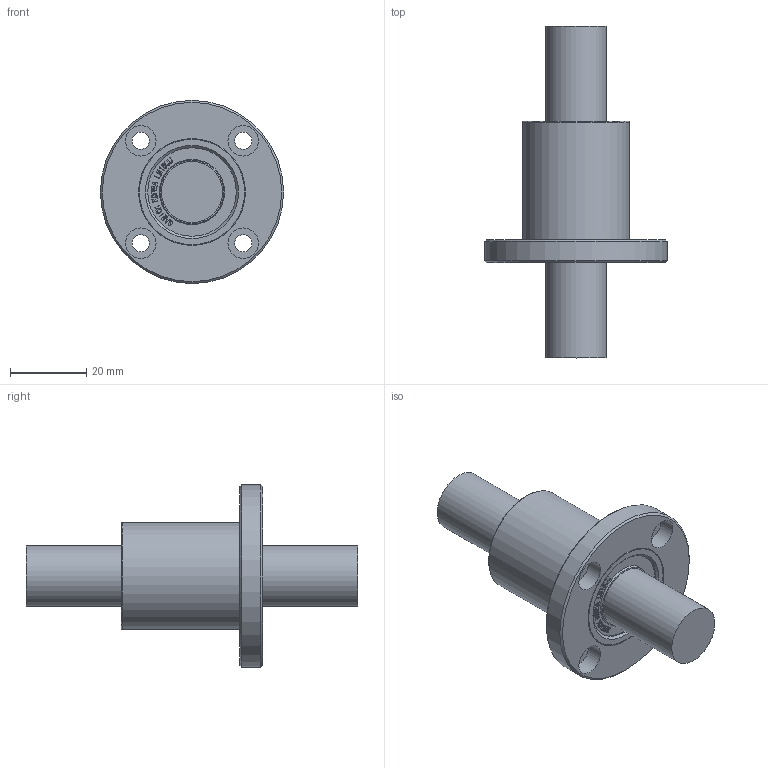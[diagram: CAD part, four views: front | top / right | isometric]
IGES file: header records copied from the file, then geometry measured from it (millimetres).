
Global section: file name: No Iges File Name specified; native system: Autodesk Inventor 2012; preprocessor: AutoDesk Inventor Iges Exporter R2012; author: user2; date: 20130206.160302; units: millimetre
Bounding box: 48 x 87 x 48 mm (x, y, z)
Volume: 38572.5 mm3; surface area: 10280.5 mm2
Topology: 1 solids, 1 shells, 837 faces, 2333 edges, 1554 vertices
Faces by surface type: bspline 588, plane 226, revolution 13, cone 4, cylinder 4, torus 2
Full cylindrical faces by diameter (mm): 16 x2, 28 x1, 48 x1
